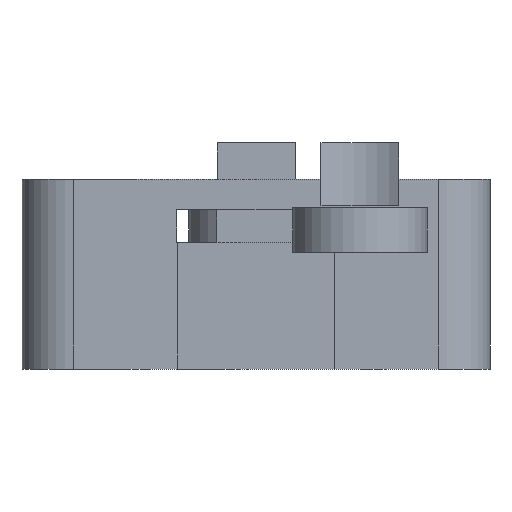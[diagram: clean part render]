
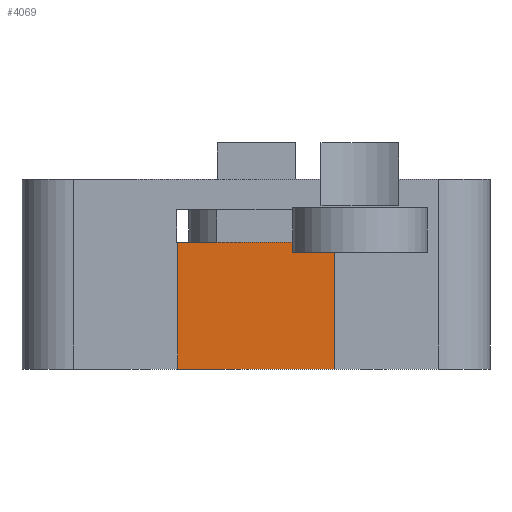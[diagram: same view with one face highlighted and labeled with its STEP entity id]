
A CAD part, left-side view. The second image highlights one B-rep face of the part: STEP entity #4069.
In plain terms, the highlighted planar face has unit normal (-1, 0, 0).
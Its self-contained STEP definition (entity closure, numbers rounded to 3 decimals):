
#72 = PLANE('',#73);
#73 = AXIS2_PLACEMENT_3D('',#74,#75,#76);
#74 = CARTESIAN_POINT('',(-9.,-47.,2.5));
#75 = DIRECTION('',(0.,0.,1.));
#76 = DIRECTION('',(1.,0.,-0.));
#99 = PLANE('',#100);
#100 = AXIS2_PLACEMENT_3D('',#101,#102,#103);
#101 = CARTESIAN_POINT('',(-10.5,-41.,2.5));
#102 = DIRECTION('',(0.,1.,0.));
#103 = DIRECTION('',(0.,0.,1.));
#250 = PLANE('',#251);
#251 = AXIS2_PLACEMENT_3D('',#252,#253,#254);
#252 = CARTESIAN_POINT('',(-10.5,-35.,2.5));
#253 = DIRECTION('',(0.,1.,0.));
#254 = DIRECTION('',(0.,0.,1.));
#1617 = VERTEX_POINT('',#1618);
#1618 = CARTESIAN_POINT('',(-10.5,-35.,2.5));
#1639 = EDGE_CURVE('',#1640,#1617,#1642,.T.);
#1640 = VERTEX_POINT('',#1641);
#1641 = CARTESIAN_POINT('',(-10.5,-41.,2.5));
#1642 = SURFACE_CURVE('',#1643,(#1647,#1654),.PCURVE_S1.);
#1643 = LINE('',#1644,#1645);
#1644 = CARTESIAN_POINT('',(-10.5,-41.,2.5));
#1645 = VECTOR('',#1646,1.);
#1646 = DIRECTION('',(0.,1.,0.));
#1647 = PCURVE('',#72,#1648);
#1648 = DEFINITIONAL_REPRESENTATION('',(#1649),#1653);
#1649 = LINE('',#1650,#1651);
#1650 = CARTESIAN_POINT('',(-1.5,6.));
#1651 = VECTOR('',#1652,1.);
#1652 = DIRECTION('',(0.,1.));
#1653 = ( GEOMETRIC_REPRESENTATION_CONTEXT(2) 
PARAMETRIC_REPRESENTATION_CONTEXT() REPRESENTATION_CONTEXT('2D SPACE',''
  ) );
#1654 = PCURVE('',#1655,#1660);
#1655 = PLANE('',#1656);
#1656 = AXIS2_PLACEMENT_3D('',#1657,#1658,#1659);
#1657 = CARTESIAN_POINT('',(-10.5,-41.,2.5));
#1658 = DIRECTION('',(1.,0.,0.));
#1659 = DIRECTION('',(0.,0.,1.));
#1660 = DEFINITIONAL_REPRESENTATION('',(#1661),#1665);
#1661 = LINE('',#1662,#1663);
#1662 = CARTESIAN_POINT('',(0.,0.));
#1663 = VECTOR('',#1664,1.);
#1664 = DIRECTION('',(0.,-1.));
#1665 = ( GEOMETRIC_REPRESENTATION_CONTEXT(2) 
PARAMETRIC_REPRESENTATION_CONTEXT() REPRESENTATION_CONTEXT('2D SPACE',''
  ) );
#2146 = EDGE_CURVE('',#1617,#2147,#2149,.T.);
#2147 = VERTEX_POINT('',#2148);
#2148 = CARTESIAN_POINT('',(-10.5,-35.,7.38));
#2149 = SURFACE_CURVE('',#2150,(#2154,#2161),.PCURVE_S1.);
#2150 = LINE('',#2151,#2152);
#2151 = CARTESIAN_POINT('',(-10.5,-35.,2.5));
#2152 = VECTOR('',#2153,1.);
#2153 = DIRECTION('',(0.,0.,1.));
#2154 = PCURVE('',#250,#2155);
#2155 = DEFINITIONAL_REPRESENTATION('',(#2156),#2160);
#2156 = LINE('',#2157,#2158);
#2157 = CARTESIAN_POINT('',(0.,0.));
#2158 = VECTOR('',#2159,1.);
#2159 = DIRECTION('',(1.,0.));
#2160 = ( GEOMETRIC_REPRESENTATION_CONTEXT(2) 
PARAMETRIC_REPRESENTATION_CONTEXT() REPRESENTATION_CONTEXT('2D SPACE',''
  ) );
#2161 = PCURVE('',#1655,#2162);
#2162 = DEFINITIONAL_REPRESENTATION('',(#2163),#2167);
#2163 = LINE('',#2164,#2165);
#2164 = CARTESIAN_POINT('',(0.,-6.));
#2165 = VECTOR('',#2166,1.);
#2166 = DIRECTION('',(1.,0.));
#2167 = ( GEOMETRIC_REPRESENTATION_CONTEXT(2) 
PARAMETRIC_REPRESENTATION_CONTEXT() REPRESENTATION_CONTEXT('2D SPACE',''
  ) );
#2185 = PLANE('',#2186);
#2186 = AXIS2_PLACEMENT_3D('',#2187,#2188,#2189);
#2187 = CARTESIAN_POINT('',(-10.5,-41.,7.38));
#2188 = DIRECTION('',(0.,0.,1.));
#2189 = DIRECTION('',(1.,0.,0.));
#2479 = EDGE_CURVE('',#1640,#2480,#2482,.T.);
#2480 = VERTEX_POINT('',#2481);
#2481 = CARTESIAN_POINT('',(-10.5,-41.,7.));
#2482 = SURFACE_CURVE('',#2483,(#2487,#2494),.PCURVE_S1.);
#2483 = LINE('',#2484,#2485);
#2484 = CARTESIAN_POINT('',(-10.5,-41.,2.5));
#2485 = VECTOR('',#2486,1.);
#2486 = DIRECTION('',(0.,0.,1.));
#2487 = PCURVE('',#99,#2488);
#2488 = DEFINITIONAL_REPRESENTATION('',(#2489),#2493);
#2489 = LINE('',#2490,#2491);
#2490 = CARTESIAN_POINT('',(0.,0.));
#2491 = VECTOR('',#2492,1.);
#2492 = DIRECTION('',(1.,0.));
#2493 = ( GEOMETRIC_REPRESENTATION_CONTEXT(2) 
PARAMETRIC_REPRESENTATION_CONTEXT() REPRESENTATION_CONTEXT('2D SPACE',''
  ) );
#2494 = PCURVE('',#1655,#2495);
#2495 = DEFINITIONAL_REPRESENTATION('',(#2496),#2500);
#2496 = LINE('',#2497,#2498);
#2497 = CARTESIAN_POINT('',(0.,0.));
#2498 = VECTOR('',#2499,1.);
#2499 = DIRECTION('',(1.,0.));
#2500 = ( GEOMETRIC_REPRESENTATION_CONTEXT(2) 
PARAMETRIC_REPRESENTATION_CONTEXT() REPRESENTATION_CONTEXT('2D SPACE',''
  ) );
#2517 = PLANE('',#2518);
#2518 = AXIS2_PLACEMENT_3D('',#2519,#2520,#2521);
#2519 = CARTESIAN_POINT('',(-24.,-43.5,7.));
#2520 = DIRECTION('',(0.,0.,1.));
#2521 = DIRECTION('',(1.,0.,0.));
#4069 = ADVANCED_FACE('',(#4070),#1655,.F.);
#4070 = FACE_BOUND('',#4071,.F.);
#4071 = EDGE_LOOP('',(#4072,#4073,#4074,#4075,#4098,#4124));
#4072 = ORIENTED_EDGE('',*,*,#2479,.F.);
#4073 = ORIENTED_EDGE('',*,*,#1639,.T.);
#4074 = ORIENTED_EDGE('',*,*,#2146,.T.);
#4075 = ORIENTED_EDGE('',*,*,#4076,.F.);
#4076 = EDGE_CURVE('',#4077,#2147,#4079,.T.);
#4077 = VERTEX_POINT('',#4078);
#4078 = CARTESIAN_POINT('',(-10.5,-40.5,7.38));
#4079 = SURFACE_CURVE('',#4080,(#4084,#4091),.PCURVE_S1.);
#4080 = LINE('',#4081,#4082);
#4081 = CARTESIAN_POINT('',(-10.5,-41.,7.38));
#4082 = VECTOR('',#4083,1.);
#4083 = DIRECTION('',(0.,1.,0.));
#4084 = PCURVE('',#1655,#4085);
#4085 = DEFINITIONAL_REPRESENTATION('',(#4086),#4090);
#4086 = LINE('',#4087,#4088);
#4087 = CARTESIAN_POINT('',(4.88,0.));
#4088 = VECTOR('',#4089,1.);
#4089 = DIRECTION('',(0.,-1.));
#4090 = ( GEOMETRIC_REPRESENTATION_CONTEXT(2) 
PARAMETRIC_REPRESENTATION_CONTEXT() REPRESENTATION_CONTEXT('2D SPACE',''
  ) );
#4091 = PCURVE('',#2185,#4092);
#4092 = DEFINITIONAL_REPRESENTATION('',(#4093),#4097);
#4093 = LINE('',#4094,#4095);
#4094 = CARTESIAN_POINT('',(0.,0.));
#4095 = VECTOR('',#4096,1.);
#4096 = DIRECTION('',(0.,1.));
#4097 = ( GEOMETRIC_REPRESENTATION_CONTEXT(2) 
PARAMETRIC_REPRESENTATION_CONTEXT() REPRESENTATION_CONTEXT('2D SPACE',''
  ) );
#4098 = ORIENTED_EDGE('',*,*,#4099,.F.);
#4099 = EDGE_CURVE('',#4100,#4077,#4102,.T.);
#4100 = VERTEX_POINT('',#4101);
#4101 = CARTESIAN_POINT('',(-10.5,-40.5,7.));
#4102 = SURFACE_CURVE('',#4103,(#4107,#4113),.PCURVE_S1.);
#4103 = LINE('',#4104,#4105);
#4104 = CARTESIAN_POINT('',(-10.5,-40.5,4.75));
#4105 = VECTOR('',#4106,1.);
#4106 = DIRECTION('',(0.,0.,1.));
#4107 = PCURVE('',#1655,#4108);
#4108 = DEFINITIONAL_REPRESENTATION('',(#4109),#4112);
#4109 = B_SPLINE_CURVE_WITH_KNOTS('',1,(#4110,#4111),.UNSPECIFIED.,.F.,
  .F.,(2,2),(2.25,2.63),.PIECEWISE_BEZIER_KNOTS.);
#4110 = CARTESIAN_POINT('',(4.5,-0.5));
#4111 = CARTESIAN_POINT('',(4.88,-0.5));
#4112 = ( GEOMETRIC_REPRESENTATION_CONTEXT(2) 
PARAMETRIC_REPRESENTATION_CONTEXT() REPRESENTATION_CONTEXT('2D SPACE',''
  ) );
#4113 = PCURVE('',#4114,#4119);
#4114 = PLANE('',#4115);
#4115 = AXIS2_PLACEMENT_3D('',#4116,#4117,#4118);
#4116 = CARTESIAN_POINT('',(-24.,-40.5,7.));
#4117 = DIRECTION('',(0.,1.,0.));
#4118 = DIRECTION('',(0.,0.,1.));
#4119 = DEFINITIONAL_REPRESENTATION('',(#4120),#4123);
#4120 = B_SPLINE_CURVE_WITH_KNOTS('',1,(#4121,#4122),.UNSPECIFIED.,.F.,
  .F.,(2,2),(2.25,2.63),.PIECEWISE_BEZIER_KNOTS.);
#4121 = CARTESIAN_POINT('',(0.,13.5));
#4122 = CARTESIAN_POINT('',(0.38,13.5));
#4123 = ( GEOMETRIC_REPRESENTATION_CONTEXT(2) 
PARAMETRIC_REPRESENTATION_CONTEXT() REPRESENTATION_CONTEXT('2D SPACE',''
  ) );
#4124 = ORIENTED_EDGE('',*,*,#4125,.T.);
#4125 = EDGE_CURVE('',#4100,#2480,#4126,.T.);
#4126 = SURFACE_CURVE('',#4127,(#4131,#4137),.PCURVE_S1.);
#4127 = LINE('',#4128,#4129);
#4128 = CARTESIAN_POINT('',(-10.5,-42.25,7.));
#4129 = VECTOR('',#4130,1.);
#4130 = DIRECTION('',(0.,-1.,0.));
#4131 = PCURVE('',#1655,#4132);
#4132 = DEFINITIONAL_REPRESENTATION('',(#4133),#4136);
#4133 = B_SPLINE_CURVE_WITH_KNOTS('',1,(#4134,#4135),.UNSPECIFIED.,.F.,
  .F.,(2,2),(-1.75,-1.25),.PIECEWISE_BEZIER_KNOTS.);
#4134 = CARTESIAN_POINT('',(4.5,-0.5));
#4135 = CARTESIAN_POINT('',(4.5,0.));
#4136 = ( GEOMETRIC_REPRESENTATION_CONTEXT(2) 
PARAMETRIC_REPRESENTATION_CONTEXT() REPRESENTATION_CONTEXT('2D SPACE',''
  ) );
#4137 = PCURVE('',#2517,#4138);
#4138 = DEFINITIONAL_REPRESENTATION('',(#4139),#4143);
#4139 = LINE('',#4140,#4141);
#4140 = CARTESIAN_POINT('',(13.5,1.25));
#4141 = VECTOR('',#4142,1.);
#4142 = DIRECTION('',(0.,-1.));
#4143 = ( GEOMETRIC_REPRESENTATION_CONTEXT(2) 
PARAMETRIC_REPRESENTATION_CONTEXT() REPRESENTATION_CONTEXT('2D SPACE',''
  ) );
